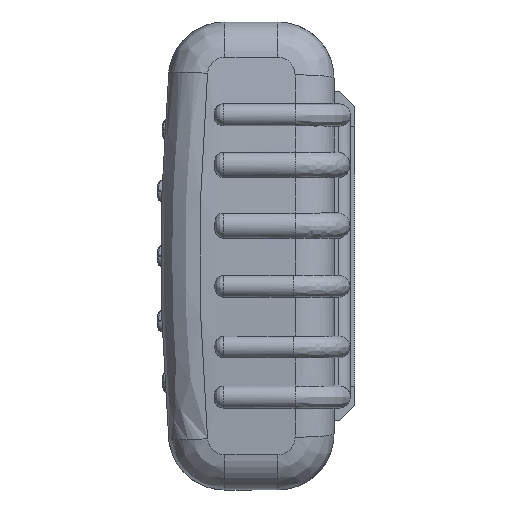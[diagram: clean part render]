
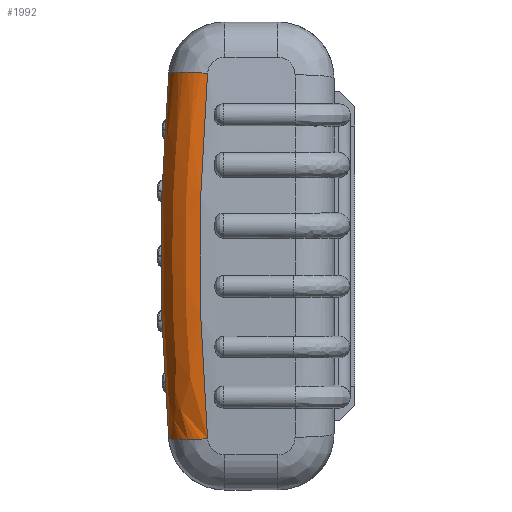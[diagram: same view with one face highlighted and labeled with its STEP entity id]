
A CAD part, left-side view. The second image highlights one B-rep face of the part: STEP entity #1992.
In plain terms, the highlighted free-form (B-spline) face has degree [3, 2] with [6, 3] control points.
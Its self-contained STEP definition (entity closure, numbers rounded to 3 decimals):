
#230 = EDGE_CURVE ( 'NONE', #22999, #36222, #13042, .T. ) ;
#427 = CARTESIAN_POINT ( 'NONE',  ( 87.154, 38.088, 42.898 ) ) ;
#953 = CARTESIAN_POINT ( 'NONE',  ( 89.121, 30.941, 14.212 ) ) ;
#1561 = VERTEX_POINT ( 'NONE', #37945 ) ;
#1865 = DIRECTION ( 'NONE',  ( -0.996, 0., -0.09 ) ) ;
#1911 = CARTESIAN_POINT ( 'NONE',  ( 78.259, 38.156, 42.101 ) ) ;
#1992 = ADVANCED_FACE ( 'NONE', ( #3085 ), #21211, .T. ) ;
#3085 = FACE_OUTER_BOUND ( 'NONE', #50225, .T. ) ;
#5162 = CARTESIAN_POINT ( 'NONE',  ( 80.121, 39.941, 14.196 ) ) ;
#7964 = EDGE_CURVE ( 'NONE', #1561, #36222, #15166, .T. ) ;
#8091 = EDGE_CURVE ( 'NONE', #22999, #24483, #12474, .T. ) ;
#9134 = AXIS2_PLACEMENT_3D ( 'NONE', #51951, #26993, #1865 ) ;
#9370 = CARTESIAN_POINT ( 'NONE',  ( 89.121, 39.941, -14.469 ) ) ;
#12123 = CARTESIAN_POINT ( 'NONE',  ( 89.121, 30.941, -14.107 ) ) ;
#12474 = B_SPLINE_CURVE_WITH_KNOTS ( 'NONE', 3,
 ( #16380, #41387, #12123, #20576, #49771, #24805 ),
 .UNSPECIFIED., .F., .F.,
 ( 4, 2, 4 ),
 ( 0.004, 0.046, 0.088 ),
 .UNSPECIFIED. ) ;
#13042 = CIRCLE ( 'NONE', #20292, 9. ) ;
#13583 = CARTESIAN_POINT ( 'NONE',  ( 88.476, 30.346, -28.258 ) ) ;
#15166 = B_SPLINE_CURVE_WITH_KNOTS ( 'NONE', 3,
 ( #1911, #52000, #43790, #18802, #47987, #22980 ),
 .UNSPECIFIED., .F., .F.,
 ( 4, 2, 4 ),
 ( 0.012, 0.054, 0.096 ),
 .UNSPECIFIED. ) ;
#16380 = CARTESIAN_POINT ( 'NONE',  ( 87.222, 29.188, -42.148 ) ) ;
#17255 = CARTESIAN_POINT ( 'NONE',  ( 78.259, 29.188, -41.339 ) ) ;
#17831 = CARTESIAN_POINT ( 'NONE',  ( 79.489, 39.335, -28.227 ) ) ;
#18802 = CARTESIAN_POINT ( 'NONE',  ( 80.121, 39.941, -14.101 ) ) ;
#20292 = AXIS2_PLACEMENT_3D ( 'NONE', #17255, #46439, #21450 ) ;
#20576 = CARTESIAN_POINT ( 'NONE',  ( 89.121, 30.941, 14.107 ) ) ;
#21039 = CARTESIAN_POINT ( 'NONE',  ( 87.222, 29.188, -42.148 ) ) ;
#21211 =( BOUNDED_SURFACE ( )  B_SPLINE_SURFACE ( 3, 2, ( 
 ( #34229, #427, #46844 ),
 ( #21855, #51036, #26073 ),
 ( #953, #30270, #5162 ),
 ( #34422, #9370, #38608 ),
 ( #13583, #42826, #17831 ),
 ( #47026, #22035, #51228 ) ),
 .UNSPECIFIED., .F., .F., .F. ) 
 B_SPLINE_SURFACE_WITH_KNOTS ( ( 4, 2, 4 ),
 ( 3, 3 ),
 ( 0.084, 0.125, 0.166 ),
 ( 0., 1. ),
 .UNSPECIFIED. ) 
 GEOMETRIC_REPRESENTATION_ITEM ( )  RATIONAL_B_SPLINE_SURFACE ( (
 ( 1., 0.71, 1.),
 ( 1., 0.708, 1.),
 ( 1., 0.707, 1.),
 ( 1., 0.707, 1.),
 ( 1., 0.708, 1.),
 ( 1., 0.71, 1.) ) ) 
 REPRESENTATION_ITEM ( '' )  SURFACE ( )  );
#21450 = DIRECTION ( 'NONE',  ( 0.996, 0., -0.09 ) ) ;
#21855 = CARTESIAN_POINT ( 'NONE',  ( 88.476, 30.346, 28.258 ) ) ;
#22035 = CARTESIAN_POINT ( 'NONE',  ( 87.154, 38.088, -42.898 ) ) ;
#22580 = ORIENTED_EDGE ( 'NONE', *, *, #27364, .T. ) ;
#22831 = CIRCLE ( 'NONE', #9134, 9. ) ;
#22980 = CARTESIAN_POINT ( 'NONE',  ( 78.259, 38.156, -42.101 ) ) ;
#22999 = VERTEX_POINT ( 'NONE', #21039 ) ;
#24483 = VERTEX_POINT ( 'NONE', #37274 ) ;
#24805 = CARTESIAN_POINT ( 'NONE',  ( 87.222, 29.188, 42.148 ) ) ;
#26073 = CARTESIAN_POINT ( 'NONE',  ( 79.489, 39.335, 28.227 ) ) ;
#26551 = ORIENTED_EDGE ( 'NONE', *, *, #230, .T. ) ;
#26993 = DIRECTION ( 'NONE',  ( 0.09, 0.084, -0.992 ) ) ;
#27364 = EDGE_CURVE ( 'NONE', #1561, #24483, #22831, .T. ) ;
#30270 = CARTESIAN_POINT ( 'NONE',  ( 89.121, 39.941, 14.469 ) ) ;
#34229 = CARTESIAN_POINT ( 'NONE',  ( 87.222, 29.188, 42.148 ) ) ;
#34422 = CARTESIAN_POINT ( 'NONE',  ( 89.121, 30.941, -14.212 ) ) ;
#36222 = VERTEX_POINT ( 'NONE', #36819 ) ;
#36819 = CARTESIAN_POINT ( 'NONE',  ( 78.259, 38.156, -42.101 ) ) ;
#37274 = CARTESIAN_POINT ( 'NONE',  ( 87.222, 29.188, 42.148 ) ) ;
#37945 = CARTESIAN_POINT ( 'NONE',  ( 78.259, 38.156, 42.101 ) ) ;
#38608 = CARTESIAN_POINT ( 'NONE',  ( 80.121, 39.941, -14.196 ) ) ;
#41387 = CARTESIAN_POINT ( 'NONE',  ( 88.486, 30.354, -28.156 ) ) ;
#42826 = CARTESIAN_POINT ( 'NONE',  ( 88.456, 39.314, -28.734 ) ) ;
#43790 = CARTESIAN_POINT ( 'NONE',  ( 80.121, 39.941, 14.101 ) ) ;
#46154 = ORIENTED_EDGE ( 'NONE', *, *, #8091, .F. ) ;
#46439 = DIRECTION ( 'NONE',  ( 0.09, 0.084, 0.992 ) ) ;
#46844 = CARTESIAN_POINT ( 'NONE',  ( 78.259, 38.156, 42.101 ) ) ;
#47026 = CARTESIAN_POINT ( 'NONE',  ( 87.222, 29.188, -42.148 ) ) ;
#47200 = ORIENTED_EDGE ( 'NONE', *, *, #7964, .F. ) ;
#47987 = CARTESIAN_POINT ( 'NONE',  ( 79.497, 39.343, -28.135 ) ) ;
#49771 = CARTESIAN_POINT ( 'NONE',  ( 88.486, 30.354, 28.156 ) ) ;
#50225 = EDGE_LOOP ( 'NONE', ( #46154, #26551, #47200, #22580 ) ) ;
#51036 = CARTESIAN_POINT ( 'NONE',  ( 88.456, 39.314, 28.734 ) ) ;
#51228 = CARTESIAN_POINT ( 'NONE',  ( 78.259, 38.156, -42.101 ) ) ;
#51951 = CARTESIAN_POINT ( 'NONE',  ( 78.259, 29.188, 41.339 ) ) ;
#52000 = CARTESIAN_POINT ( 'NONE',  ( 79.497, 39.343, 28.135 ) ) ;
